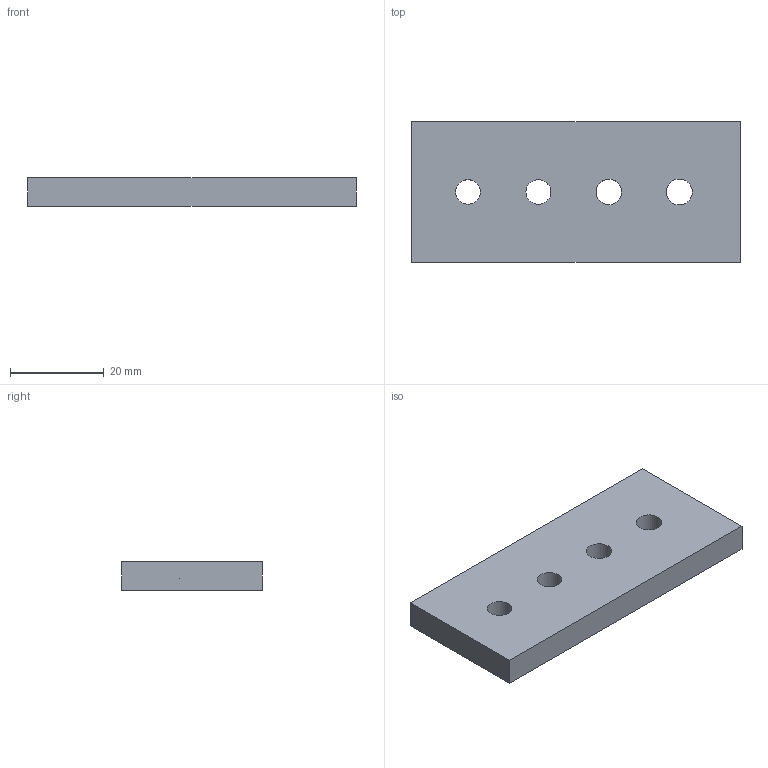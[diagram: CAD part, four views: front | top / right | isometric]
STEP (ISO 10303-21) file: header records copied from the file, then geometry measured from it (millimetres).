
FILE_DESCRIPTION(('Open CASCADE Model'),'2;1');
FILE_NAME('CP-PIN5-LADDER','2026-11-15T22:30:28',('Author'),( 'Open CASCADE'),'Open CASCADE STEP processor 8.0','build123d', 'Unknown');
FILE_SCHEMA(('AUTOMOTIVE_DESIGN { 1 0 10303 214 1 1 1 1 }'));
Length unit declared in the file: millimetre
Products named in the file (1): CP-PIN5-LADDER
Bounding box: 70 x 30 x 6 mm (x, y, z)
Volume: 12060.2 mm3; surface area: 5623.5 mm2
Topology: 1 solids, 1 shells, 10 faces, 24 edges, 16 vertices
Faces by surface type: plane 6, cylinder 4
Full cylindrical faces by diameter (mm): 5.2 x1, 5.3 x1, 5.4 x1, 5.5 x1
Entity records: 634 total; most frequent: DIRECTION 102, CARTESIAN_POINT 99, LINE 56, VECTOR 56, ORIENTED_EDGE 48, PCURVE 48, DEFINITIONAL_REPRESENTATION 48, EDGE_CURVE 24
